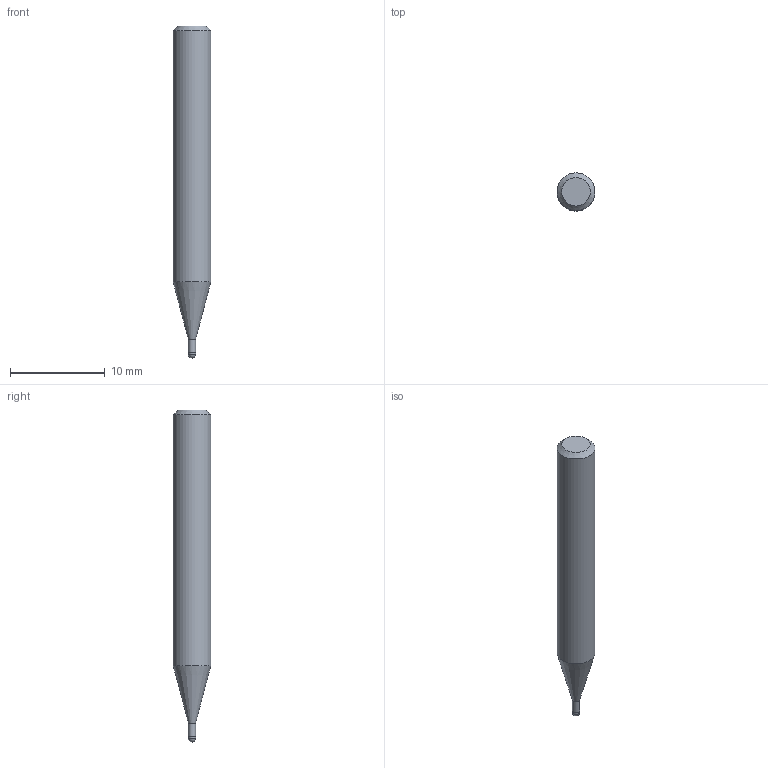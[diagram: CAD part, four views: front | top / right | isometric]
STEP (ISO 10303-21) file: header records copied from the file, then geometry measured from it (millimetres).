
FILE_DESCRIPTION((''),'2;1');
FILE_NAME('C:\Users\nsx150\AppData\Local\Temp\Mastercam 2021\QT8KEW0Y7J\TEMP.step','2021-04-23T11:20:56',(''),(''),'STEP Write','Mastercam 2021 ... CNC Software, Inc.','');
FILE_SCHEMA(('AUTOMOTIVE_DESIGN'));
Length unit declared in the file: millimetre
Products named in the file (1): None
Bounding box: 4 x 4 x 35 mm (x, y, z)
Volume: 369.2 mm3; surface area: 399.9 mm2
Topology: 2 solids, 2 shells, 9 faces, 14 edges, 8 vertices
Faces by surface type: plane 3, cylinder 3, cone 2, sphere 1
Full cylindrical faces by diameter (mm): 0.76 x1, 0.8 x1, 4 x1
Entity records: 211 total; most frequent: DIRECTION 36, CARTESIAN_POINT 25, AXIS2_PLACEMENT_3D 18, ORIENTED_EDGE 14, EDGE_LOOP 14, STYLED_ITEM 12, ADVANCED_FACE 9, FACE_BOUND 8
